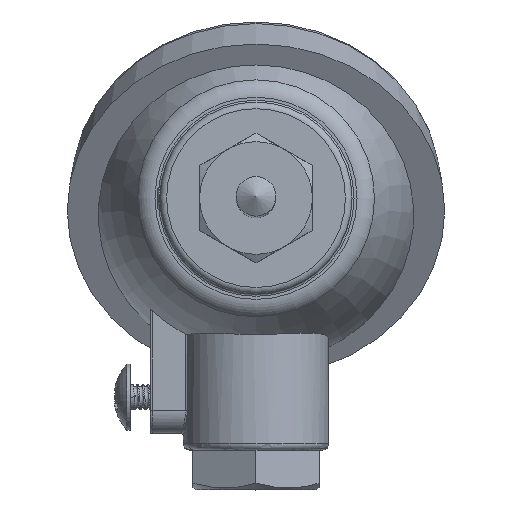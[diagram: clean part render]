
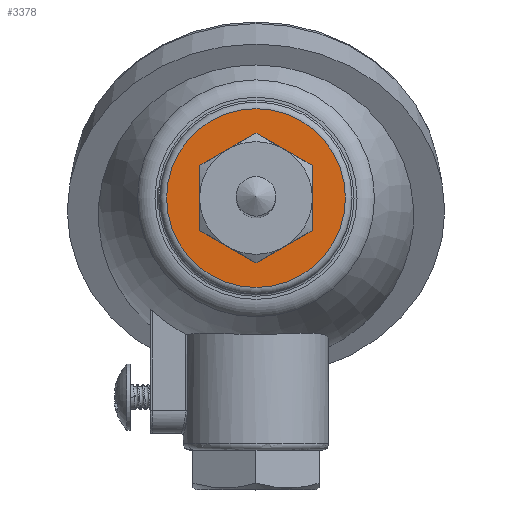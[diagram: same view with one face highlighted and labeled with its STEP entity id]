
A CAD part, top view. The second image highlights one B-rep face of the part: STEP entity #3378.
In plain terms, the highlighted planar face has unit normal (0, 0, 1).
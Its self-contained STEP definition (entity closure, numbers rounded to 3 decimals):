
#62 = VERTEX_POINT ( 'NONE', #4847 ) ;
#266 = CARTESIAN_POINT ( 'NONE',  ( 0., 0., -5. ) ) ;
#431 = VERTEX_POINT ( 'NONE', #2580 ) ;
#479 = DIRECTION ( 'NONE',  ( 0., -1., 0. ) ) ;
#535 = LINE ( 'NONE', #4826, #6846 ) ;
#614 = EDGE_LOOP ( 'NONE', ( #3353 ) ) ;
#716 = VERTEX_POINT ( 'NONE', #5761 ) ;
#1129 = VERTEX_POINT ( 'NONE', #5750 ) ;
#1697 = CARTESIAN_POINT ( 'NONE',  ( 0., 9.8, -5. ) ) ;
#1712 = VECTOR ( 'NONE', #7139, 1000. ) ;
#1722 = DIRECTION ( 'NONE',  ( 0.866, 0.5, 0. ) ) ;
#1809 = ORIENTED_EDGE ( 'NONE', *, *, #3957, .F. ) ;
#1820 = DIRECTION ( 'NONE',  ( 0., 1., 0. ) ) ;
#1960 = EDGE_CURVE ( 'NONE', #431, #1129, #3654, .T. ) ;
#1988 = CARTESIAN_POINT ( 'NONE',  ( 0., 0., -5. ) ) ;
#2197 = EDGE_CURVE ( 'NONE', #2328, #62, #4722, .T. ) ;
#2328 = VERTEX_POINT ( 'NONE', #2456 ) ;
#2456 = CARTESIAN_POINT ( 'NONE',  ( 0., 9.8, -5. ) ) ;
#2463 = CARTESIAN_POINT ( 'NONE',  ( 8.487, -4.9, -5. ) ) ;
#2497 = EDGE_CURVE ( 'NONE', #716, #431, #4069, .T. ) ;
#2576 = PLANE ( 'NONE',  #3634 ) ;
#2580 = CARTESIAN_POINT ( 'NONE',  ( 8.487, -4.9, -5. ) ) ;
#3050 = ORIENTED_EDGE ( 'NONE', *, *, #2497, .F. ) ;
#3099 = VECTOR ( 'NONE', #1722, 1000. ) ;
#3153 = CIRCLE ( 'NONE', #7748, 13.5 ) ;
#3292 = FACE_OUTER_BOUND ( 'NONE', #614, .T. ) ;
#3353 = ORIENTED_EDGE ( 'NONE', *, *, #5652, .T. ) ;
#3356 = VECTOR ( 'NONE', #5961, 1000. ) ;
#3378 = ADVANCED_FACE ( 'NONE', ( #5720, #3292 ), #2576, .F. ) ;
#3601 = EDGE_LOOP ( 'NONE', ( #3050, #6412, #1809, #7602, #5510, #4356 ) ) ;
#3634 = AXIS2_PLACEMENT_3D ( 'NONE', #266, #5115, #7569 ) ;
#3640 = VECTOR ( 'NONE', #479, 1000. ) ;
#3654 = LINE ( 'NONE', #2463, #6771 ) ;
#3769 = LINE ( 'NONE', #7412, #1712 ) ;
#3858 = CARTESIAN_POINT ( 'NONE',  ( -8.487, -4.9, -5. ) ) ;
#3957 = EDGE_CURVE ( 'NONE', #62, #5701, #4366, .T. ) ;
#3989 = EDGE_CURVE ( 'NONE', #5701, #716, #3769, .T. ) ;
#4069 = LINE ( 'NONE', #4751, #3099 ) ;
#4328 = DIRECTION ( 'NONE',  ( 0., 0., 1. ) ) ;
#4356 = ORIENTED_EDGE ( 'NONE', *, *, #1960, .F. ) ;
#4366 = LINE ( 'NONE', #6800, #3640 ) ;
#4414 = DIRECTION ( 'NONE',  ( 0., 1., 0. ) ) ;
#4428 = CARTESIAN_POINT ( 'NONE',  ( 0., 13.5, -5. ) ) ;
#4722 = LINE ( 'NONE', #1697, #3356 ) ;
#4751 = CARTESIAN_POINT ( 'NONE',  ( 0., -9.8, -5. ) ) ;
#4826 = CARTESIAN_POINT ( 'NONE',  ( 8.487, 4.9, -5. ) ) ;
#4847 = CARTESIAN_POINT ( 'NONE',  ( -8.487, 4.9, -5. ) ) ;
#5115 = DIRECTION ( 'NONE',  ( 0., 0., -1. ) ) ;
#5510 = ORIENTED_EDGE ( 'NONE', *, *, #5976, .F. ) ;
#5652 = EDGE_CURVE ( 'NONE', #5746, #5746, #3153, .T. ) ;
#5701 = VERTEX_POINT ( 'NONE', #3858 ) ;
#5720 = FACE_BOUND ( 'NONE', #3601, .T. ) ;
#5746 = VERTEX_POINT ( 'NONE', #4428 ) ;
#5750 = CARTESIAN_POINT ( 'NONE',  ( 8.487, 4.9, -5. ) ) ;
#5761 = CARTESIAN_POINT ( 'NONE',  ( 0., -9.8, -5. ) ) ;
#5961 = DIRECTION ( 'NONE',  ( -0.866, -0.5, 0. ) ) ;
#5976 = EDGE_CURVE ( 'NONE', #1129, #2328, #535, .T. ) ;
#6069 = DIRECTION ( 'NONE',  ( -0.866, 0.5, 0. ) ) ;
#6412 = ORIENTED_EDGE ( 'NONE', *, *, #3989, .F. ) ;
#6771 = VECTOR ( 'NONE', #1820, 1000. ) ;
#6800 = CARTESIAN_POINT ( 'NONE',  ( -8.487, 4.9, -5. ) ) ;
#6846 = VECTOR ( 'NONE', #6069, 1000. ) ;
#7139 = DIRECTION ( 'NONE',  ( 0.866, -0.5, 0. ) ) ;
#7412 = CARTESIAN_POINT ( 'NONE',  ( -8.487, -4.9, -5. ) ) ;
#7569 = DIRECTION ( 'NONE',  ( 0., 1., 0. ) ) ;
#7602 = ORIENTED_EDGE ( 'NONE', *, *, #2197, .F. ) ;
#7748 = AXIS2_PLACEMENT_3D ( 'NONE', #1988, #4328, #4414 ) ;
